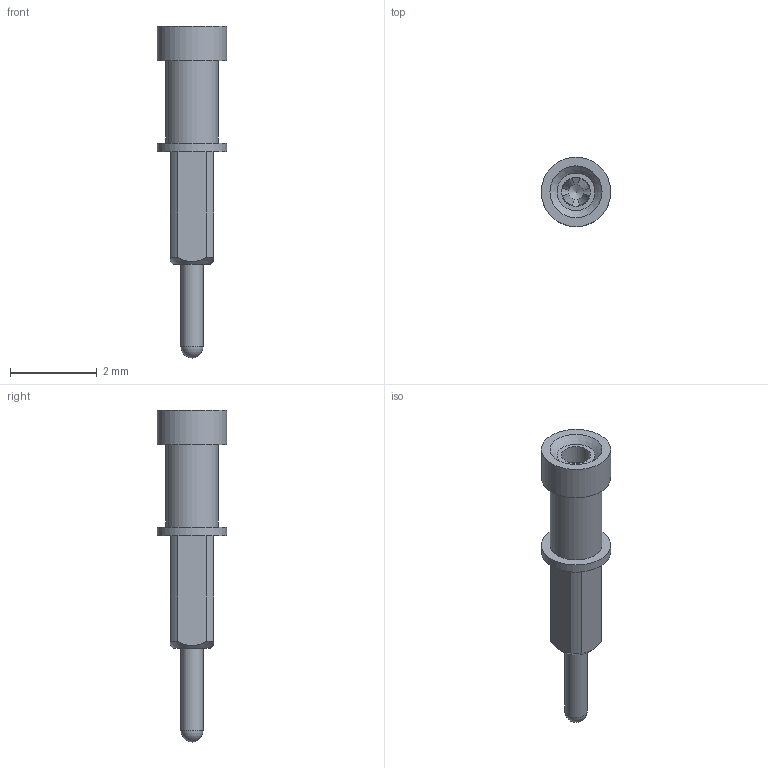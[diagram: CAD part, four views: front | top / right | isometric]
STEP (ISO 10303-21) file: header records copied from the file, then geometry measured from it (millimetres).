
FILE_DESCRIPTION(/* description */ (''),/* implementation_level */ '2;1');
FILE_NAME(/* name */ 'MachinePin_Medium_Short v28.step',/* time_stamp */ '2025-05-14T14:56:36-04:00',/* author */ (''),/* organization */ (''),/* preprocessor_version */ 'ST-DEVELOPER v20.1',/* originating_system */ 'Autodesk Translation Framework v14.4.0.0',/* authorisation */ '');
FILE_SCHEMA (('AUTOMOTIVE_DESIGN { 1 0 10303 214 3 1 1 }'));
Length unit declared in the file: millimetre
Products named in the file (2): MachinePin_Medium_Short; MpinContact_Medium
Assembly tree (1 placements, depth 2):
  MachinePin_Medium_Short
    MpinContact_Medium
Bounding box: 1.6 x 1.6 x 7.66 mm (x, y, z)
Volume: 5.6 mm3; surface area: 44.3 mm2
Topology: 2 solids, 2 shells, 53 faces, 136 edges, 89 vertices
Faces by surface type: plane 22, cone 15, cylinder 11, bspline 4, sphere 1
Full cylindrical faces by diameter (mm): 0.51 x1, 0.67 x1, 0.87 x2, 1.2 x1, 1.6 x2
Entity records: 2263 total; most frequent: CARTESIAN_POINT 909, DIRECTION 284, ORIENTED_EDGE 268, EDGE_CURVE 134, AXIS2_PLACEMENT_3D 115, VERTEX_POINT 89, EDGE_LOOP 59, LINE 54
